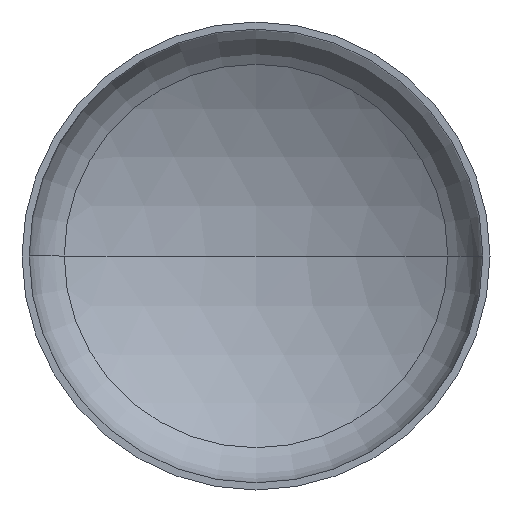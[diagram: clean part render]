
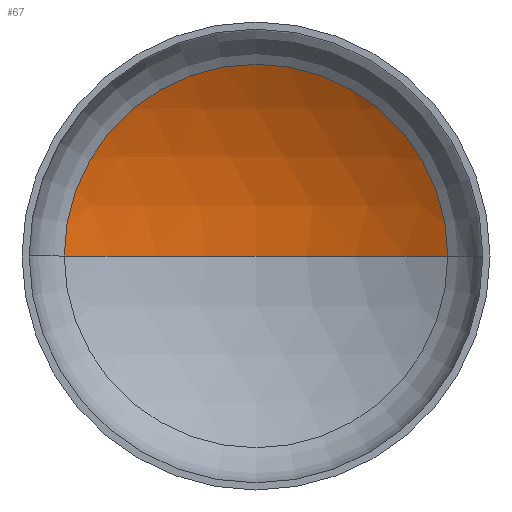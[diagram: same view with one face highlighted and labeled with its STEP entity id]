
A CAD part, front view. The second image highlights one B-rep face of the part: STEP entity #67.
In plain terms, the highlighted spherical face has radius 4400 mm.
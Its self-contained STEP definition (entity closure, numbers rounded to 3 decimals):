
#9 = VERTEX_POINT ( 'NONE', #265 ) ;
#35 = ORIENTED_EDGE ( 'NONE', *, *, #257, .T. ) ;
#67 = ADVANCED_FACE ( 'NONE', ( #291 ), #210, .F. ) ;
#77 = VERTEX_POINT ( 'NONE', #83 ) ;
#83 = CARTESIAN_POINT ( 'NONE',  ( -2253.84, 825.724, 0. ) ) ;
#87 = AXIS2_PLACEMENT_3D ( 'NONE', #227, #225, #118 ) ;
#92 = ORIENTED_EDGE ( 'NONE', *, *, #249, .T. ) ;
#97 = AXIS2_PLACEMENT_3D ( 'NONE', #248, #276, #275 ) ;
#106 = AXIS2_PLACEMENT_3D ( 'NONE', #187, #175, #176 ) ;
#118 = DIRECTION ( 'NONE',  ( 1., 0., 0. ) ) ;
#128 = ORIENTED_EDGE ( 'NONE', *, *, #263, .F. ) ;
#165 = VERTEX_POINT ( 'NONE', #323 ) ;
#175 = DIRECTION ( 'NONE',  ( 0., -1., 0. ) ) ;
#176 = DIRECTION ( 'NONE',  ( 1., 0., 0. ) ) ;
#179 = EDGE_LOOP ( 'NONE', ( #128, #35, #92 ) ) ;
#187 = CARTESIAN_POINT ( 'NONE',  ( 0., 825.724, 0. ) ) ;
#209 = AXIS2_PLACEMENT_3D ( 'NONE', #293, #242, #237 ) ;
#210 = SPHERICAL_SURFACE ( 'NONE', #209, 4400. ) ;
#225 = DIRECTION ( 'NONE',  ( 0., 0., 1. ) ) ;
#227 = CARTESIAN_POINT ( 'NONE',  ( 0., -2953.192, 0. ) ) ;
#237 = DIRECTION ( 'NONE',  ( -1., 0., 0. ) ) ;
#242 = DIRECTION ( 'NONE',  ( 0., 0., -1. ) ) ;
#248 = CARTESIAN_POINT ( 'NONE',  ( 0., -2953.192, 0. ) ) ;
#249 = EDGE_CURVE ( 'NONE', #165, #77, #268, .T. ) ;
#257 = EDGE_CURVE ( 'NONE', #9, #165, #321, .T. ) ;
#259 = CIRCLE ( 'NONE', #87, 4400. ) ;
#263 = EDGE_CURVE ( 'NONE', #9, #77, #259, .T. ) ;
#265 = CARTESIAN_POINT ( 'NONE',  ( 0., 1446.808, 0. ) ) ;
#268 = CIRCLE ( 'NONE', #106, 2253.84 ) ;
#275 = DIRECTION ( 'NONE',  ( -1., 0., 0. ) ) ;
#276 = DIRECTION ( 'NONE',  ( 0., 0., -1. ) ) ;
#291 = FACE_OUTER_BOUND ( 'NONE', #179, .T. ) ;
#293 = CARTESIAN_POINT ( 'NONE',  ( 0., -2953.192, 0. ) ) ;
#321 = CIRCLE ( 'NONE', #97, 4400. ) ;
#323 = CARTESIAN_POINT ( 'NONE',  ( 2253.84, 825.724, 0. ) ) ;
